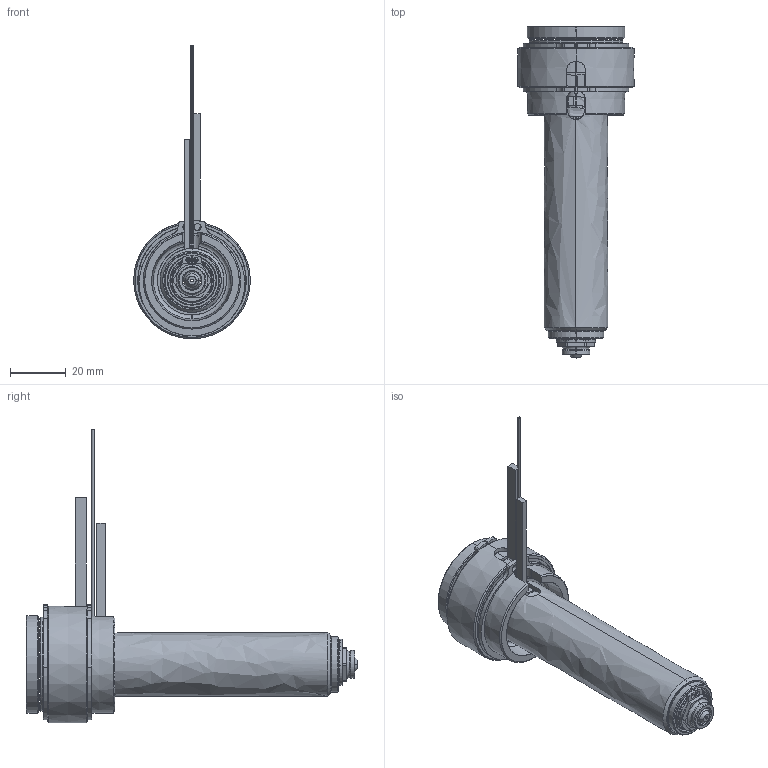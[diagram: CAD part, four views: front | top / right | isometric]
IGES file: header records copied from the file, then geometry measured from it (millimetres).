
Start section: SolidWorks IGES file using analytic representation for surfaces
Global section: file name: C:\Documents and Settings\ws-20\Desktop\TEM\UGER3552-S-A-1 [Øb-0.90  ØC-7.0].IGS; native system: SolidWorks 2012; preprocessor: SolidWorks 2012; author: ws-20; date: 120410.100745; units: millimetre
Bounding box: 42 x 119.4 x 105.6 mm (x, y, z)
Surface area: 38154.9 mm2 (no closed solid volume)
Topology: 0 solids, 0 shells, 205 faces, 3464 edges, 3464 vertices
Faces by surface type: revolution 132, bspline 73
